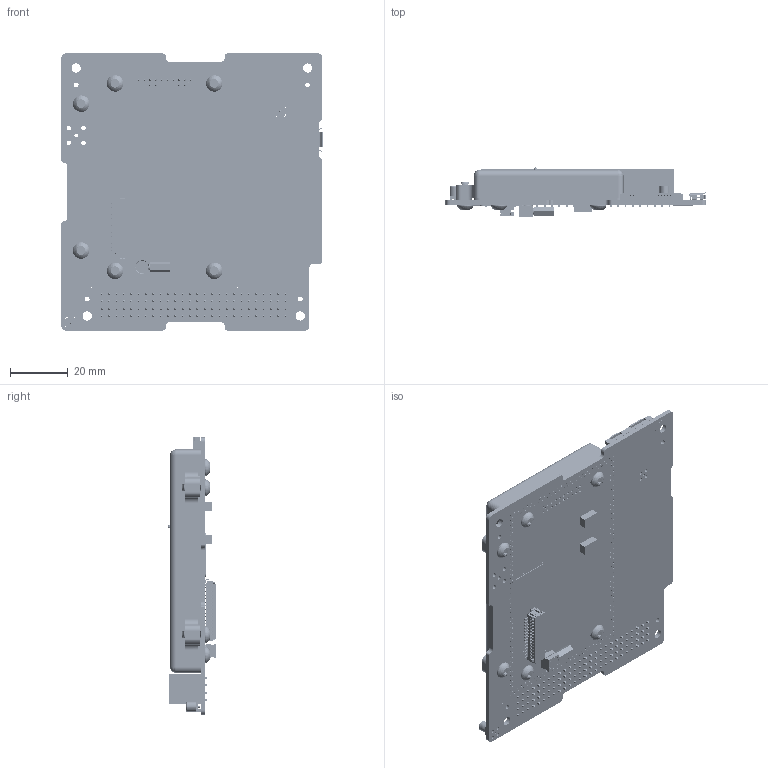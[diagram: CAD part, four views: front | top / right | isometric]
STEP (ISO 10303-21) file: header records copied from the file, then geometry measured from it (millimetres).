
FILE_DESCRIPTION (( 'STEP AP214' ), '1' );
FILE_NAME ('710-00908 GPS Receiver Module 1 Non-Stackthrough.STEP', '2016-12-20T22:35:28', ( '' ), ( '' ), 'SwSTEP 2.0', 'SolidWorks 2014', '' );
FILE_SCHEMA (( 'AUTOMOTIVE_DESIGN' ));
Length unit declared in the file: inch
Products named in the file (2): 710-00908 GPS Receiver Module 1 Non-Stackthrough
Bounding box: 90.26 x 16.92 x 95.89 mm (x, y, z)
Volume: 45086.4 mm3; surface area: 54847.8 mm2
Topology: 52 solids, 55 shells, 8296 faces, 20056 edges, 12628 vertices
Faces by surface type: plane 5353, cylinder 2293, cone 594, sphere 26, bspline 22, torus 8
Entity records: 302942 total; most frequent: CARTESIAN_POINT 42243, DIRECTION 41669, ORIENTED_EDGE 40072, EDGE_CURVE 20036, LINE 14537, VECTOR 14537, AXIS2_PLACEMENT_3D 13566, VERTEX_POINT 12626
